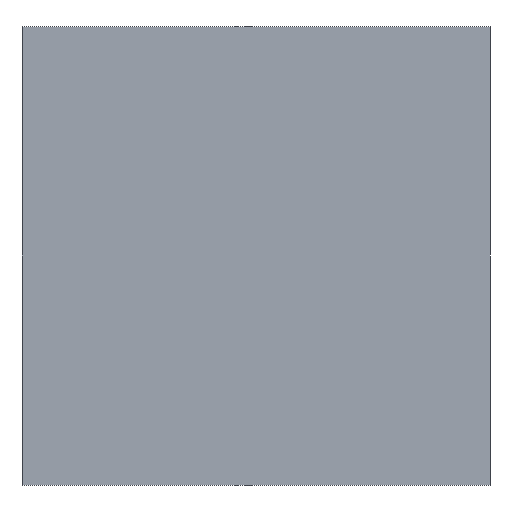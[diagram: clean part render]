
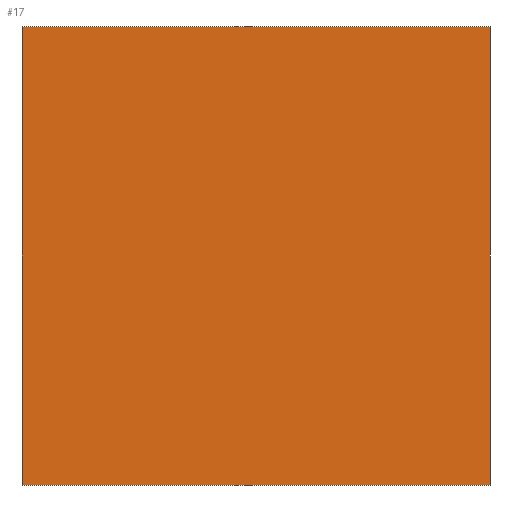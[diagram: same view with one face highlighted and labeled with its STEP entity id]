
A CAD part, left-side view. The second image highlights one B-rep face of the part: STEP entity #17.
In plain terms, the highlighted planar face has unit normal (-1, 0, 0).
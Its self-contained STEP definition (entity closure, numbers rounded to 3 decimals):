
#17 = ADVANCED_FACE('',(#18),#32,.F.);
#18 = FACE_BOUND('',#19,.F.);
#19 = EDGE_LOOP('',(#20,#55,#83,#111));
#20 = ORIENTED_EDGE('',*,*,#21,.F.);
#21 = EDGE_CURVE('',#22,#24,#26,.T.);
#22 = VERTEX_POINT('',#23);
#23 = CARTESIAN_POINT('',(-39.,-47.,-46.));
#24 = VERTEX_POINT('',#25);
#25 = CARTESIAN_POINT('',(-39.,-47.,46.));
#26 = SURFACE_CURVE('',#27,(#31,#43),.PCURVE_S1.);
#27 = LINE('',#28,#29);
#28 = CARTESIAN_POINT('',(-39.,-47.,-46.));
#29 = VECTOR('',#30,1.);
#30 = DIRECTION('',(0.,0.,1.));
#31 = PCURVE('',#32,#37);
#32 = PLANE('',#33);
#33 = AXIS2_PLACEMENT_3D('',#34,#35,#36);
#34 = CARTESIAN_POINT('',(-39.,-47.,-46.));
#35 = DIRECTION('',(1.,0.,0.));
#36 = DIRECTION('',(0.,0.,1.));
#37 = DEFINITIONAL_REPRESENTATION('',(#38),#42);
#38 = LINE('',#39,#40);
#39 = CARTESIAN_POINT('',(0.,0.));
#40 = VECTOR('',#41,1.);
#41 = DIRECTION('',(1.,0.));
#42 = ( GEOMETRIC_REPRESENTATION_CONTEXT(2) 
PARAMETRIC_REPRESENTATION_CONTEXT() REPRESENTATION_CONTEXT('2D SPACE',''
  ) );
#43 = PCURVE('',#44,#49);
#44 = PLANE('',#45);
#45 = AXIS2_PLACEMENT_3D('',#46,#47,#48);
#46 = CARTESIAN_POINT('',(-39.,-47.,-46.));
#47 = DIRECTION('',(0.,1.,0.));
#48 = DIRECTION('',(0.,0.,1.));
#49 = DEFINITIONAL_REPRESENTATION('',(#50),#54);
#50 = LINE('',#51,#52);
#51 = CARTESIAN_POINT('',(0.,0.));
#52 = VECTOR('',#53,1.);
#53 = DIRECTION('',(1.,0.));
#54 = ( GEOMETRIC_REPRESENTATION_CONTEXT(2) 
PARAMETRIC_REPRESENTATION_CONTEXT() REPRESENTATION_CONTEXT('2D SPACE',''
  ) );
#55 = ORIENTED_EDGE('',*,*,#56,.T.);
#56 = EDGE_CURVE('',#22,#57,#59,.T.);
#57 = VERTEX_POINT('',#58);
#58 = CARTESIAN_POINT('',(-39.,47.,-46.));
#59 = SURFACE_CURVE('',#60,(#64,#71),.PCURVE_S1.);
#60 = LINE('',#61,#62);
#61 = CARTESIAN_POINT('',(-39.,-47.,-46.));
#62 = VECTOR('',#63,1.);
#63 = DIRECTION('',(0.,1.,0.));
#64 = PCURVE('',#32,#65);
#65 = DEFINITIONAL_REPRESENTATION('',(#66),#70);
#66 = LINE('',#67,#68);
#67 = CARTESIAN_POINT('',(0.,0.));
#68 = VECTOR('',#69,1.);
#69 = DIRECTION('',(0.,-1.));
#70 = ( GEOMETRIC_REPRESENTATION_CONTEXT(2) 
PARAMETRIC_REPRESENTATION_CONTEXT() REPRESENTATION_CONTEXT('2D SPACE',''
  ) );
#71 = PCURVE('',#72,#77);
#72 = PLANE('',#73);
#73 = AXIS2_PLACEMENT_3D('',#74,#75,#76);
#74 = CARTESIAN_POINT('',(-39.,-47.,-46.));
#75 = DIRECTION('',(0.,0.,1.));
#76 = DIRECTION('',(1.,0.,0.));
#77 = DEFINITIONAL_REPRESENTATION('',(#78),#82);
#78 = LINE('',#79,#80);
#79 = CARTESIAN_POINT('',(0.,0.));
#80 = VECTOR('',#81,1.);
#81 = DIRECTION('',(0.,1.));
#82 = ( GEOMETRIC_REPRESENTATION_CONTEXT(2) 
PARAMETRIC_REPRESENTATION_CONTEXT() REPRESENTATION_CONTEXT('2D SPACE',''
  ) );
#83 = ORIENTED_EDGE('',*,*,#84,.T.);
#84 = EDGE_CURVE('',#57,#85,#87,.T.);
#85 = VERTEX_POINT('',#86);
#86 = CARTESIAN_POINT('',(-39.,47.,46.));
#87 = SURFACE_CURVE('',#88,(#92,#99),.PCURVE_S1.);
#88 = LINE('',#89,#90);
#89 = CARTESIAN_POINT('',(-39.,47.,-46.));
#90 = VECTOR('',#91,1.);
#91 = DIRECTION('',(0.,0.,1.));
#92 = PCURVE('',#32,#93);
#93 = DEFINITIONAL_REPRESENTATION('',(#94),#98);
#94 = LINE('',#95,#96);
#95 = CARTESIAN_POINT('',(0.,-94.));
#96 = VECTOR('',#97,1.);
#97 = DIRECTION('',(1.,0.));
#98 = ( GEOMETRIC_REPRESENTATION_CONTEXT(2) 
PARAMETRIC_REPRESENTATION_CONTEXT() REPRESENTATION_CONTEXT('2D SPACE',''
  ) );
#99 = PCURVE('',#100,#105);
#100 = PLANE('',#101);
#101 = AXIS2_PLACEMENT_3D('',#102,#103,#104);
#102 = CARTESIAN_POINT('',(-39.,47.,-46.));
#103 = DIRECTION('',(0.,1.,0.));
#104 = DIRECTION('',(0.,0.,1.));
#105 = DEFINITIONAL_REPRESENTATION('',(#106),#110);
#106 = LINE('',#107,#108);
#107 = CARTESIAN_POINT('',(0.,0.));
#108 = VECTOR('',#109,1.);
#109 = DIRECTION('',(1.,0.));
#110 = ( GEOMETRIC_REPRESENTATION_CONTEXT(2) 
PARAMETRIC_REPRESENTATION_CONTEXT() REPRESENTATION_CONTEXT('2D SPACE',''
  ) );
#111 = ORIENTED_EDGE('',*,*,#112,.F.);
#112 = EDGE_CURVE('',#24,#85,#113,.T.);
#113 = SURFACE_CURVE('',#114,(#118,#125),.PCURVE_S1.);
#114 = LINE('',#115,#116);
#115 = CARTESIAN_POINT('',(-39.,-47.,46.));
#116 = VECTOR('',#117,1.);
#117 = DIRECTION('',(0.,1.,0.));
#118 = PCURVE('',#32,#119);
#119 = DEFINITIONAL_REPRESENTATION('',(#120),#124);
#120 = LINE('',#121,#122);
#121 = CARTESIAN_POINT('',(92.,0.));
#122 = VECTOR('',#123,1.);
#123 = DIRECTION('',(0.,-1.));
#124 = ( GEOMETRIC_REPRESENTATION_CONTEXT(2) 
PARAMETRIC_REPRESENTATION_CONTEXT() REPRESENTATION_CONTEXT('2D SPACE',''
  ) );
#125 = PCURVE('',#126,#131);
#126 = PLANE('',#127);
#127 = AXIS2_PLACEMENT_3D('',#128,#129,#130);
#128 = CARTESIAN_POINT('',(-39.,-47.,46.));
#129 = DIRECTION('',(0.,0.,1.));
#130 = DIRECTION('',(1.,0.,0.));
#131 = DEFINITIONAL_REPRESENTATION('',(#132),#136);
#132 = LINE('',#133,#134);
#133 = CARTESIAN_POINT('',(0.,0.));
#134 = VECTOR('',#135,1.);
#135 = DIRECTION('',(0.,1.));
#136 = ( GEOMETRIC_REPRESENTATION_CONTEXT(2) 
PARAMETRIC_REPRESENTATION_CONTEXT() REPRESENTATION_CONTEXT('2D SPACE',''
  ) );
